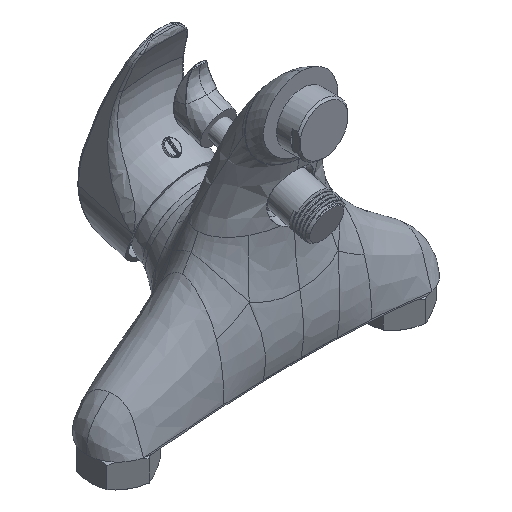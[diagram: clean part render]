
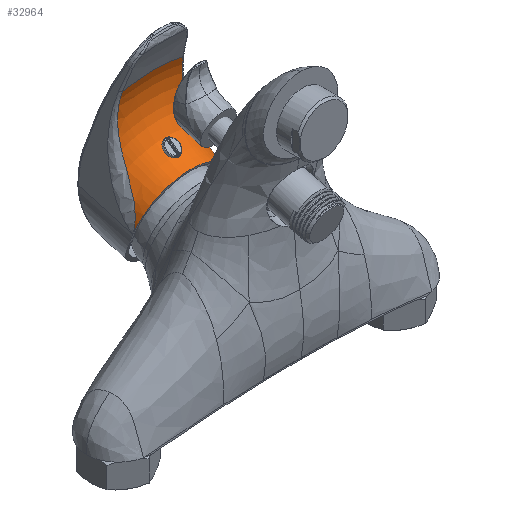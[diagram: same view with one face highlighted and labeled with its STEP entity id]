
A CAD part, isometric view. The second image highlights one B-rep face of the part: STEP entity #32964.
In plain terms, the highlighted toroidal (fillet/blend) face has major radius 55.569 mm and minor radius 29.569 mm.
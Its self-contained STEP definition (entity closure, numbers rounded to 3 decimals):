
#26120=CARTESIAN_POINT('',(-25.516,41.184,
50.188));
#26121=CARTESIAN_POINT('',(-25.426,41.14,
50.654));
#26122=CARTESIAN_POINT('',(-25.218,41.11,
51.623));
#26123=CARTESIAN_POINT('',(-24.823,41.231,
53.154));
#26124=CARTESIAN_POINT('',(-24.321,41.522,
54.833));
#26125=CARTESIAN_POINT('',(-23.745,42.044,
56.594));
#26126=CARTESIAN_POINT('',(-23.11,42.759,
58.424));
#26127=CARTESIAN_POINT('',(-22.476,43.612,
60.219));
#26128=CARTESIAN_POINT('',(-21.918,44.539,
61.873));
#26129=CARTESIAN_POINT('',(-21.402,45.518,
63.491));
#26130=CARTESIAN_POINT('',(-20.93,46.556,
65.115));
#26131=CARTESIAN_POINT('',(-20.504,47.634,
66.762));
#26132=CARTESIAN_POINT('',(-20.128,48.719,
68.425));
#26133=CARTESIAN_POINT('',(-19.803,49.797,
70.113));
#26134=CARTESIAN_POINT('',(-19.513,50.883,
71.888));
#26135=CARTESIAN_POINT('',(-19.246,52.019,
73.862));
#26136=CARTESIAN_POINT('',(-18.99,53.234,
76.178));
#26137=CARTESIAN_POINT('',(-18.746,54.506,
78.947));
#26138=CARTESIAN_POINT('',(-18.514,55.698,
82.115));
#26139=CARTESIAN_POINT('',(-18.293,56.647,
85.436));
#26140=CARTESIAN_POINT('',(-18.067,57.294,
88.744));
#26141=CARTESIAN_POINT('',(-17.819,57.65,
92.003));
#26142=CARTESIAN_POINT('',(-17.539,57.726,
95.22));
#26143=CARTESIAN_POINT('',(-17.22,57.529,
98.396));
#26144=CARTESIAN_POINT('',(-16.855,57.065,
101.508));
#26145=CARTESIAN_POINT('',(-16.582,56.581,
103.528));
#26146=CARTESIAN_POINT('',(-16.441,56.298,
104.52));
#26156=CARTESIAN_POINT('',(25.462,41.109,50.449));
#26157=CARTESIAN_POINT('',(25.354,41.037,50.974));
#26158=CARTESIAN_POINT('',(25.102,40.955,52.045));
#26159=CARTESIAN_POINT('',(24.634,41.021,53.695));
#26160=CARTESIAN_POINT('',(24.063,41.282,55.428));
#26161=CARTESIAN_POINT('',(23.434,41.784,57.178));
#26162=CARTESIAN_POINT('',(22.768,42.479,58.948));
#26163=CARTESIAN_POINT('',(22.111,43.324,60.679));
#26164=CARTESIAN_POINT('',(21.539,44.258,62.279));
#26165=CARTESIAN_POINT('',(21.02,45.246,63.837));
#26166=CARTESIAN_POINT('',(20.55,46.303,65.41));
#26167=CARTESIAN_POINT('',(20.141,47.385,66.982));
#26168=CARTESIAN_POINT('',(19.79,48.47,68.561));
#26169=CARTESIAN_POINT('',(19.487,49.57,70.198));
#26170=CARTESIAN_POINT('',(19.22,50.694,71.951));
#26171=CARTESIAN_POINT('',(18.973,51.911,73.976));
#26172=CARTESIAN_POINT('',(18.738,53.25,76.454));
#26173=CARTESIAN_POINT('',(18.532,54.58,79.32));
#26174=CARTESIAN_POINT('',(18.348,55.769,82.485));
#26175=CARTESIAN_POINT('',(18.175,56.691,85.738));
#26176=CARTESIAN_POINT('',(17.991,57.318,88.987));
#26177=CARTESIAN_POINT('',(17.78,57.657,92.193));
#26178=CARTESIAN_POINT('',(17.529,57.722,95.359));
#26179=CARTESIAN_POINT('',(17.228,57.519,98.485));
#26180=CARTESIAN_POINT('',(16.869,57.056,101.551));
#26181=CARTESIAN_POINT('',(16.589,56.577,103.542));
#26182=CARTESIAN_POINT('',(16.441,56.298,104.52));
#26506=CARTESIAN_POINT('',(0.,70.884,
53.483));
#26507=DIRECTION('',(0.,-0.962,
-0.275));
#26508=DIRECTION('',(0.296,-0.262,0.918));
#26509=AXIS2_PLACEMENT_3D('',#26506,#26507,#26508);
#26961=CARTESIAN_POINT('',(0.,42.556,45.387));
#26962=DIRECTION('',(0.,0.962,0.275));
#26963=DIRECTION('',(-0.981,-0.053,0.185));
#26964=AXIS2_PLACEMENT_3D('',#26961,#26962,#26963);
#30759=CARTESIAN_POINT('',(16.441,56.298,104.52));
#30760=CARTESIAN_POINT('',(-16.441,56.298,
104.52));
#30761=VERTEX_POINT('',#30759);
#30762=VERTEX_POINT('',#30760);
#30816=CARTESIAN_POINT('',(-25.516,41.184,
50.188));
#30817=CARTESIAN_POINT('',(25.462,41.109,50.448));
#30818=VERTEX_POINT('',#30816);
#30819=VERTEX_POINT('',#30817);
#32949=CARTESIAN_POINT('',(0.,42.454,45.358));
#32950=DIRECTION('',(0.,0.962,0.275));
#32951=DIRECTION('',(0.,-0.275,0.962));
#32952=AXIS2_PLACEMENT_3D('',#32949,#32950,#32951);
#32953=TOROIDAL_SURFACE('',#32952,55.569,29.569);
#32955=ORIENTED_EDGE('',*,*,#32954,.T.);
#32957=ORIENTED_EDGE('',*,*,#32956,.F.);
#32959=ORIENTED_EDGE('',*,*,#32958,.F.);
#32961=ORIENTED_EDGE('',*,*,#32960,.F.);
#32962=EDGE_LOOP('',(#32955,#32957,#32959,#32961));
#32963=FACE_OUTER_BOUND('',#32962,.F.);
#32964=ADVANCED_FACE('',(#32963),#32953,.F.);
#26147=B_SPLINE_CURVE_WITH_KNOTS('',3,(#26120,#26121,#26122,#26123,#26124,
#26125,#26126,#26127,#26128,#26129,#26130,#26131,#26132,#26133,#26134,#26135,
#26136,#26137,#26138,#26139,#26140,#26141,#26142,#26143,#26144,#26145,#26146),
.UNSPECIFIED.,.F.,.F.,(4,1,1,1,1,1,1,1,1,1,1,1,1,1,1,1,1,1,1,1,1,1,1,1,4),(0.,
0.042,0.083,0.125,0.167,0.208,
0.25,0.292,0.333,0.375,0.417,
0.458,0.5,0.542,0.583,0.625,
0.667,0.708,0.75,0.792,0.833,
0.875,0.917,0.958,1.),.UNSPECIFIED.);
#26183=B_SPLINE_CURVE_WITH_KNOTS('',3,(#26156,#26157,#26158,#26159,#26160,
#26161,#26162,#26163,#26164,#26165,#26166,#26167,#26168,#26169,#26170,#26171,
#26172,#26173,#26174,#26175,#26176,#26177,#26178,#26179,#26180,#26181,#26182),
.UNSPECIFIED.,.F.,.F.,(4,1,1,1,1,1,1,1,1,1,1,1,1,1,1,1,1,1,1,1,1,1,1,1,4),(0.,
0.042,0.083,0.125,0.167,0.208,
0.25,0.292,0.333,0.375,0.417,
0.458,0.5,0.542,0.583,0.625,
0.667,0.708,0.75,0.792,0.833,
0.875,0.917,0.958,1.),.UNSPECIFIED.);
#26510=CIRCLE('',#26509,55.569);
#26965=CIRCLE('',#26964,26.);
#32954=EDGE_CURVE('',#30818,#30762,#26147,.T.);
#32956=EDGE_CURVE('',#30761,#30762,#26510,.T.);
#32958=EDGE_CURVE('',#30819,#30761,#26183,.T.);
#32960=EDGE_CURVE('',#30818,#30819,#26965,.T.);
